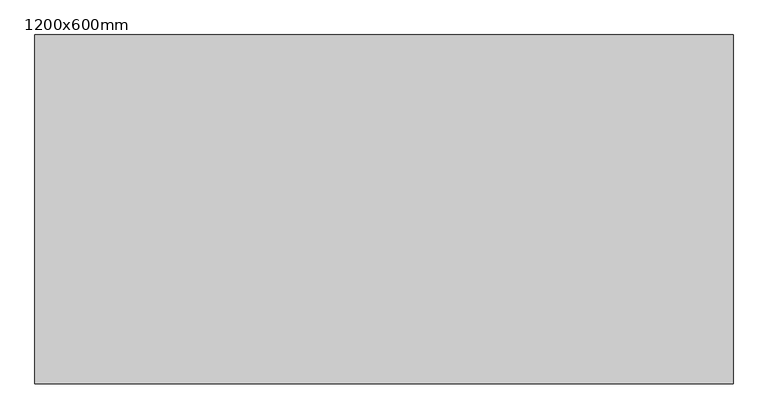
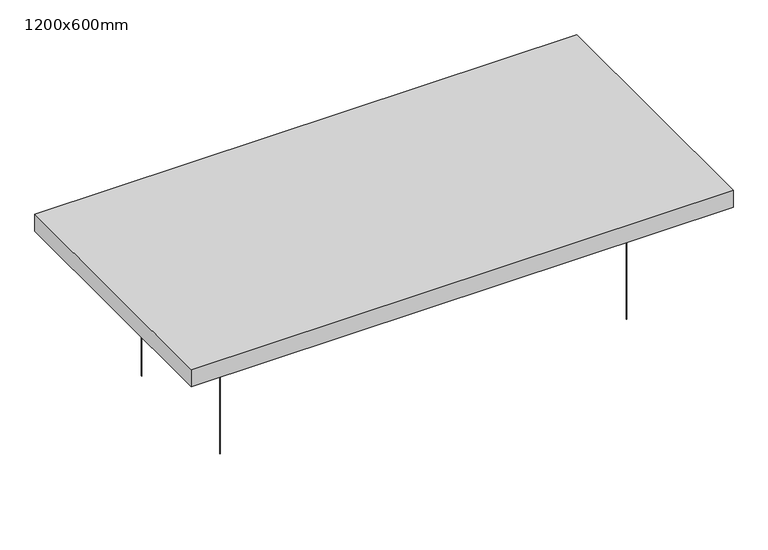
"""IFC4 building model written with IfcOpenShell, lengths in millimetres: proxy geometry, Phonic Silence Cloud Panel : 1200x600mm."""

from ifc_helpers import new_model, si_unit, point, frame, frame_2d, origin, origin_with_axes, place, context, project, spatial, polyline, circle_curve, trimmed, segment, composite_curve, outline, extrude, source, transform, mapped, element, save


def proxy_1200x600mm_5f30a447(model_context):
    return source(origin(), model_context, "Body", "SweptSolid", [
        extrude(outline(composite_curve([segment(trimmed(circle_curve(frame_2d((450.0, -150.0)), 0.5), [point((449.5, -150.0))], [point((450.5, -150.0))], False, "CARTESIAN"), True, "CONTINUOUS"), segment(trimmed(circle_curve(frame_2d((450.0, -150.0)), 0.5), [point((450.5, -150.0))], [point((449.5, -150.0))], False, "CARTESIAN"), True, "CONTINUOUS")], self_intersect=False)), origin_with_axes(), (0.0, 0.0, 1.0), 300.0),
        extrude(outline(composite_curve([segment(trimmed(circle_curve(frame_2d((-450.0, -150.0)), 0.5), [point((-450.5, -150.0))], [point((-449.5, -150.0))], False, "CARTESIAN"), True, "CONTINUOUS"), segment(trimmed(circle_curve(frame_2d((-450.0, -150.0)), 0.5), [point((-449.5, -150.0))], [point((-450.5, -150.0))], False, "CARTESIAN"), True, "CONTINUOUS")], self_intersect=False)), origin_with_axes(), (0.0, 0.0, 1.0), 300.0),
        extrude(outline(composite_curve([segment(trimmed(circle_curve(frame_2d((450.0, 150.0)), 0.5), [point((449.5, 150.0))], [point((450.5, 150.0))], False, "CARTESIAN"), True, "CONTINUOUS"), segment(trimmed(circle_curve(frame_2d((450.0, 150.0)), 0.5), [point((450.5, 150.0))], [point((449.5, 150.0))], False, "CARTESIAN"), True, "CONTINUOUS")], self_intersect=False)), origin_with_axes(), (0.0, 0.0, 1.0), 300.0),
        extrude(outline(composite_curve([segment(trimmed(circle_curve(frame_2d((-450.0, 150.0)), 0.5), [point((-450.5, 150.0))], [point((-449.5, 150.0))], False, "CARTESIAN"), True, "CONTINUOUS"), segment(trimmed(circle_curve(frame_2d((-450.0, 150.0)), 0.5), [point((-449.5, 150.0))], [point((-450.5, 150.0))], False, "CARTESIAN"), True, "CONTINUOUS")], self_intersect=False)), origin_with_axes(), (0.0, 0.0, 1.0), 300.0),
        extrude(outline(polyline([(600.0, 300.0), (600.0, -300.0), (-600.0, -300.0), (-600.0, 300.0), (600.0, 300.0)])), frame((0.0, 0.0, 300.0), z_axis=(0.0, 0.0, 1.0), x_axis=(1.0, 0.0, 0.0)), (0.0, 0.0, 1.0), 40.0),
    ])


if __name__ == "__main__":
    model = new_model("IFC4")
    model_context = context("Model", 3, world=origin())
    ifc_project = project(units=[si_unit("LENGTHUNIT", "METRE", prefix="MILLI")], contexts=[model_context])
    site = spatial("IfcSite", under=ifc_project)
    building = spatial("IfcBuilding", under=site)
    placement = place(None, origin())
    proxy_1200x600mm_shape = proxy_1200x600mm_5f30a447(model_context)
    element("IfcBuildingElementProxy", 1, Name="Phonic Silence Cloud Panel : 1200x600mm", ObjectType="Phonic Silence Cloud Panel : 1200x600mm", at=placement, inside=building, context=model_context, shape_type="MappedRepresentation", body=[
        mapped(proxy_1200x600mm_shape, transform((0.0, 0.0, 0.0), x_axis=(1.0, 0.0, 0.0), y_axis=(0.0, 1.0, 0.0), z_axis=(0.0, 0.0, 1.0))),
    ])
    save(model, "model.ifc")
